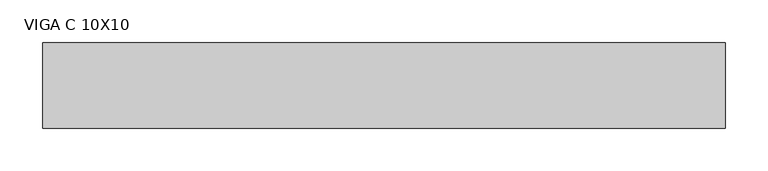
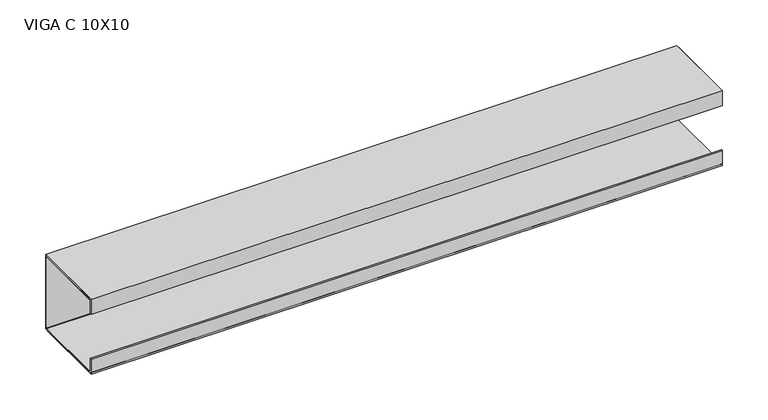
"""IFC4 building model written with IfcOpenShell, lengths in millimetres: beam geometry, VIGA PERFIL C AÇO : VIGA C 10X10."""

from ifc_helpers import new_model, si_unit, point, frame, frame_2d, origin, place, context, project, spatial, polyline, circle_curve, trimmed, segment, composite_curve, outline, extrude, source, transform, mapped, element, save


def viga_c_10x10_b1578972(model_context):
    return source(origin(), model_context, "Body", "SweptSolid", [
        extrude(outline(polyline([(9.2, -50.0), (-90.8, -50.0), (-90.8, -30.0), (-88.9, -30.0), (-88.9, -48.1), (7.3, -48.1), (7.3, 48.1), (-88.9, 48.1), (-88.9, 30.0), (-90.8, 30.0), (-90.8, 50.0), (9.2, 50.0), (9.2, -50.0)])), frame((-358.0, 0.0, 0.0), z_axis=(1.0, 0.0, 0.0), x_axis=(0.0, 1.0, 0.0)), (0.0, 0.0, 1.0), 799.0),
        extrude(outline(composite_curve([segment(trimmed(circle_curve(frame_2d((5.4, -46.2)), 3.8), [point((9.2, -46.2))], [point((5.4, -50.0))], False, "CARTESIAN"), True, "CONTINUOUS"), segment(polyline([(5.4, -50.0), (-87.0, -50.0)]), True, "CONTINUOUS"), segment(trimmed(circle_curve(frame_2d((-87.0, -46.2)), 3.8), [point((-87.0, -50.0))], [point((-90.8, -46.2))], False, "CARTESIAN"), True, "CONTINUOUS"), segment(polyline([(-90.8, -46.2), (-90.8, -30.0), (-88.9, -30.0), (-88.9, -46.2)]), True, "CONTINUOUS"), segment(trimmed(circle_curve(frame_2d((-87.0, -46.2)), 1.9), [point((-88.9, -46.2))], [point((-87.0, -48.1))], True, "CARTESIAN"), True, "CONTINUOUS"), segment(polyline([(-87.0, -48.1), (5.4, -48.1)]), True, "CONTINUOUS"), segment(trimmed(circle_curve(frame_2d((5.4, -46.2)), 1.9), [point((5.4, -48.1))], [point((7.3, -46.2))], True, "CARTESIAN"), True, "CONTINUOUS"), segment(polyline([(7.3, -46.2), (7.3, 46.2)]), True, "CONTINUOUS"), segment(trimmed(circle_curve(frame_2d((5.4, 46.2)), 1.9), [point((7.3, 46.2))], [point((5.4, 48.1))], True, "CARTESIAN"), True, "CONTINUOUS"), segment(polyline([(5.4, 48.1), (-87.0, 48.1)]), True, "CONTINUOUS"), segment(trimmed(circle_curve(frame_2d((-87.0, 46.2)), 1.9), [point((-87.0, 48.1))], [point((-88.9, 46.2))], True, "CARTESIAN"), True, "CONTINUOUS"), segment(polyline([(-88.9, 46.2), (-88.9, 30.0), (-90.8, 30.0), (-90.8, 46.2)]), True, "CONTINUOUS"), segment(trimmed(circle_curve(frame_2d((-87.0, 46.2)), 3.8), [point((-90.8, 46.2))], [point((-87.0, 50.0))], False, "CARTESIAN"), True, "CONTINUOUS"), segment(polyline([(-87.0, 50.0), (5.4, 50.0)]), True, "CONTINUOUS"), segment(trimmed(circle_curve(frame_2d((5.4, 46.2)), 3.8), [point((5.4, 50.0))], [point((9.2, 46.2))], False, "CARTESIAN"), True, "CONTINUOUS"), segment(polyline([(9.2, 46.2), (9.2, -46.2)]), True, "CONTINUOUS")], self_intersect=False)), frame((-358.0, 0.0, 0.0), z_axis=(1.0, 0.0, 0.0), x_axis=(0.0, 1.0, 0.0)), (0.0, 0.0, 1.0), 799.0),
    ])


if __name__ == "__main__":
    model = new_model("IFC4")
    model_context = context("Model", 3, world=origin())
    ifc_project = project(units=[si_unit("LENGTHUNIT", "METRE", prefix="MILLI")], contexts=[model_context])
    site = spatial("IfcSite", under=ifc_project)
    building = spatial("IfcBuilding", under=site)
    placement = place(None, origin())
    viga_c_10x10_shape = viga_c_10x10_b1578972(model_context)
    element("IfcBeam", 1, ObjectType="VIGA PERFIL C AÇO : VIGA C 10X10", at=placement, inside=building, context=model_context, shape_type="MappedRepresentation", body=[
        mapped(viga_c_10x10_shape, transform((0.0, 0.0, 0.0), x_axis=(1.0, 0.0, 0.0), y_axis=(0.0, 1.0, 0.0), z_axis=(0.0, 0.0, 1.0))),
    ])
    save(model, "model.ifc")
